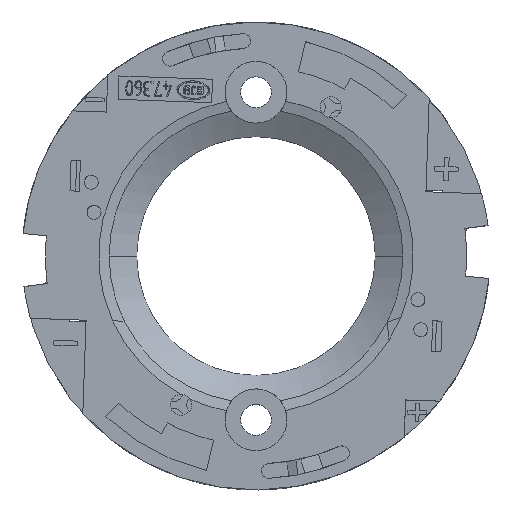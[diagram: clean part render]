
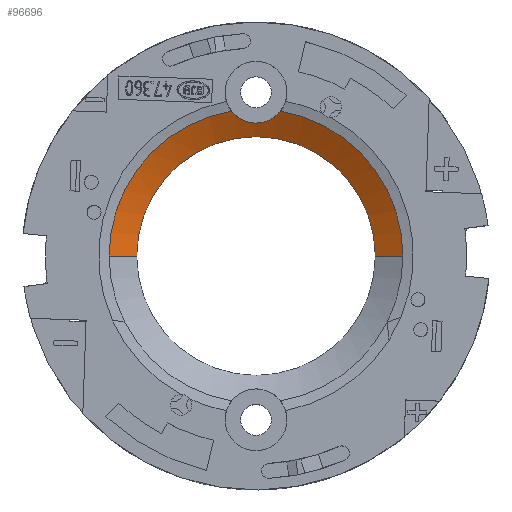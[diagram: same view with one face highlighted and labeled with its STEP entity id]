
A CAD part, top view. The second image highlights one B-rep face of the part: STEP entity #96696.
In plain terms, the highlighted free-form (B-spline) face has degree [7, 1] with [8, 2] control points.
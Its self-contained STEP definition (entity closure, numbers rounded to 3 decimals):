
#59031=CARTESIAN_POINT(' ',(2.607,15.476,2.7));
#59032=VERTEX_POINT(' ',#59031);
#59046=CARTESIAN_POINT(' ',(0.,0.,2.7));
#59051=DIRECTION(' ',(0.,0.,1.));
#59056=DIRECTION(' ',(1.,0.,0.));
#59061=AXIS2_PLACEMENT_3D(' ',#59046,#59051,#59056);
#59066=CIRCLE('',#59061,15.694);
#59071=CARTESIAN_POINT(' ',(15.694,0.,2.7));
#59072=VERTEX_POINT(' ',#59071);
#59076=EDGE_CURVE(' ',#59072,#59032,#59066,.T.);
#60141=CARTESIAN_POINT(' ',(-0.001,0.001,2.7));
#60146=DIRECTION(' ',(0.,0.,1.));
#60151=DIRECTION(' ',(-0.166,0.986,0.));
#60156=AXIS2_PLACEMENT_3D(' ',#60141,#60146,#60151);
#60161=CIRCLE('',#60156,15.694);
#60166=CARTESIAN_POINT(' ',(-2.607,15.476,2.7));
#60167=VERTEX_POINT(' ',#60166);
#60171=CARTESIAN_POINT(' ',(-15.694,0.,2.7));
#60172=VERTEX_POINT(' ',#60171);
#60176=EDGE_CURVE(' ',#60167,#60172,#60161,.T.);
#61226=CARTESIAN_POINT(' ',(-2.607,15.476,2.7));
#61231=CARTESIAN_POINT(' ',(-2.313,15.097,2.456));
#61236=CARTESIAN_POINT(' ',(-1.943,14.772,2.235));
#61241=CARTESIAN_POINT(' ',(-1.123,14.379,1.965));
#61246=CARTESIAN_POINT(' ',(-0.798,14.267,1.884));
#61251=CARTESIAN_POINT(' ',(-0.094,14.191,1.831));
#61256=CARTESIAN_POINT(' ',(0.216,14.198,1.835));
#61261=CARTESIAN_POINT(' ',(0.896,14.294,1.905));
#61266=CARTESIAN_POINT(' ',(1.216,14.414,1.989));
#61271=CARTESIAN_POINT(' ',(1.955,14.795,2.252));
#61276=CARTESIAN_POINT(' ',(2.321,15.108,2.463));
#61281=CARTESIAN_POINT(' ',(2.607,15.476,2.7));
#61286=B_SPLINE_CURVE_WITH_KNOTS('',3,(#61226,#61231,#61236,#61241,#61246,#61251,#61256,#61261,#61266,#61271,#61276,#61281),.UNSPECIFIED.,.F.,.U.,(4,2,2,2,2,4),(0.,0.299,0.471,0.571,0.744,1.),.UNSPECIFIED.);
#61291=EDGE_CURVE(' ',#60167,#59032,#61286,.T.);
#96481=CARTESIAN_POINT(' ',(15.694,0.,2.7));
#96486=CARTESIAN_POINT(' ',(12.75,0.,1.));
#96491=CARTESIAN_POINT(' ',(15.694,7.044,2.7));
#96496=CARTESIAN_POINT(' ',(12.75,5.722,1.));
#96501=CARTESIAN_POINT(' ',(12.005,14.081,2.7));
#96506=CARTESIAN_POINT(' ',(9.753,11.439,1.));
#96511=CARTESIAN_POINT(' ',(4.637,18.841,2.7));
#96516=CARTESIAN_POINT(' ',(3.767,15.306,1.));
#96521=CARTESIAN_POINT(' ',(-4.637,18.841,2.7));
#96526=CARTESIAN_POINT(' ',(-3.767,15.306,1.));
#96531=CARTESIAN_POINT(' ',(-12.005,14.081,2.7));
#96536=CARTESIAN_POINT(' ',(-9.753,11.439,1.));
#96541=CARTESIAN_POINT(' ',(-15.694,7.044,2.7));
#96546=CARTESIAN_POINT(' ',(-12.75,5.722,1.));
#96551=CARTESIAN_POINT(' ',(-15.694,0.,2.7));
#96556=CARTESIAN_POINT(' ',(-12.75,0.,1.));
#96561=B_SPLINE_SURFACE_WITH_KNOTS(' ',7,1,((#96481,#96486),(#96491,#96496),(#96501,#96506),(#96511,#96516),(#96521,#96526),(#96531,#96536),(#96541,#96546),(#96551,#96556)),.UNSPECIFIED.,.F.,.F.,.U.,(8,8),(2,2),(0.,1.),(0.,1.),.UNSPECIFIED.);
#96566=CARTESIAN_POINT(' ',(-15.694,0.,2.7));
#96571=DIRECTION(' ',(0.866,0.,-0.5));
#96576=VECTOR(' ',#96571,1.);
#96581=LINE('',#96566,#96576);
#96586=CARTESIAN_POINT(' ',(-12.75,0.,1.));
#96587=VERTEX_POINT(' ',#96586);
#96591=EDGE_CURVE(' ',#60172,#96587,#96581,.T.);
#96596=ORIENTED_EDGE(' ',*,*,#96591,.T.);
#96601=CARTESIAN_POINT(' ',(0.,0.,1.));
#96606=DIRECTION(' ',(0.,0.,-1.));
#96611=DIRECTION(' ',(-1.,0.,0.));
#96616=AXIS2_PLACEMENT_3D(' ',#96601,#96606,#96611);
#96621=CIRCLE('',#96616,12.75);
#96626=CARTESIAN_POINT(' ',(12.75,0.,1.));
#96627=VERTEX_POINT(' ',#96626);
#96631=EDGE_CURVE(' ',#96587,#96627,#96621,.T.);
#96636=ORIENTED_EDGE(' ',*,*,#96631,.T.);
#96641=CARTESIAN_POINT(' ',(12.75,0.,1.));
#96646=DIRECTION(' ',(0.866,0.,0.5));
#96651=VECTOR(' ',#96646,1.);
#96656=LINE('',#96641,#96651);
#96661=EDGE_CURVE(' ',#96627,#59072,#96656,.T.);
#96666=ORIENTED_EDGE(' ',*,*,#96661,.T.);
#96671=ORIENTED_EDGE(' ',*,*,#59076,.T.);
#96676=ORIENTED_EDGE(' ',*,*,#61291,.F.);
#96681=ORIENTED_EDGE(' ',*,*,#60176,.T.);
#96686=EDGE_LOOP(' ',(#96596,#96636,#96666,#96671,#96676,#96681));
#96691=FACE_OUTER_BOUND(' ',#96686,.T.);
#96696=ADVANCED_FACE('',(#96691),#96561,.T.);
